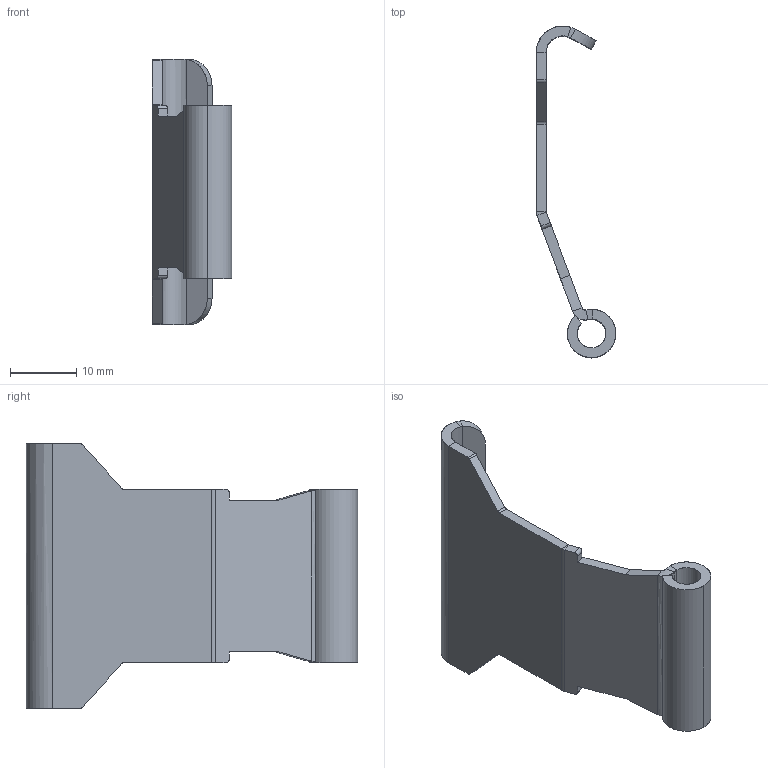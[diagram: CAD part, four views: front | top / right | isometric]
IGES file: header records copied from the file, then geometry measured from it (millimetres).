
Start section: SolidWorks IGES FILE using analytic representation for surfaces
Global section: file name: C:\Documents and Settings\brechard\Bureau\GE 85\85.030.00.IGS; native system: SolidWorks 2001Plus by SolidWorks Corporation; preprocessor: Version 5.3; author: brechard; date: 050126.112936; units: millimetre
Bounding box: 12 x 50 x 40 mm (x, y, z)
Surface area: 4298.5 mm2 (no closed solid volume)
Topology: 0 solids, 0 shells, 54 faces, 462 edges, 462 vertices
Faces by surface type: bspline 34, revolution 20
